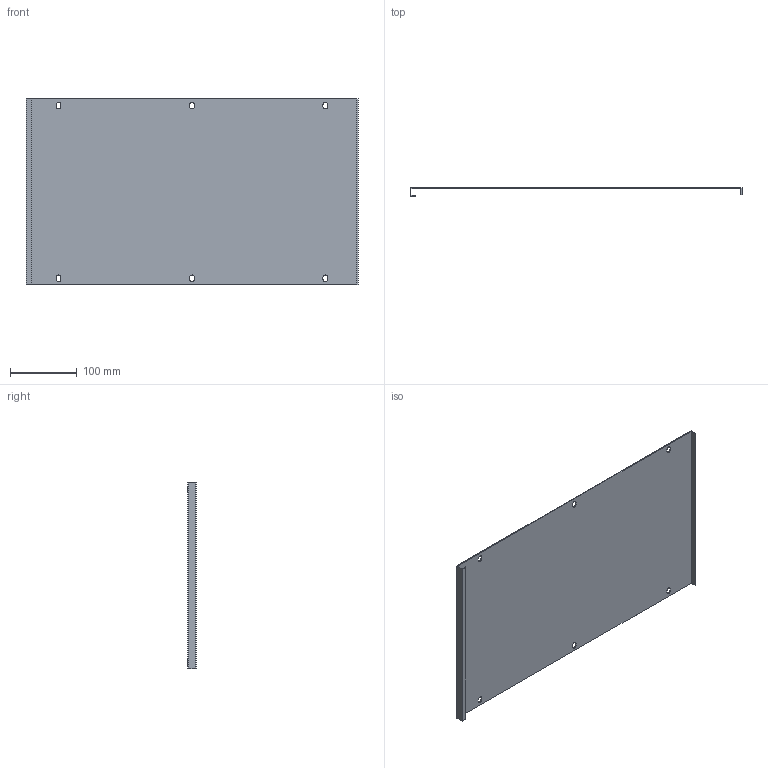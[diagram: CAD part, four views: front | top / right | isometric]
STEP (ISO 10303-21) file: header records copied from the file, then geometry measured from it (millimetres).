
FILE_DESCRIPTION (( 'STEP AP214' ), '1' );
FILE_NAME ('FO-00-PVS-050-040 Ïëàñòðîí ãëóõîé âíóòðåííèé 500õ400.STEP', '2025-08-26T08:46:37', ( '' ), ( '' ), 'SwSTEP 2.0', 'SolidWorks 2023', '' );
FILE_SCHEMA (( 'AUTOMOTIVE_DESIGN' ));
Length unit declared in the file: millimetre
Products named in the file (1): FO-00-PVS-050-040 Пластрон глухой внутренний 500х400
Bounding box: 498 x 12.5 x 279 mm (x, y, z)
Volume: 218758.6 mm3; surface area: 294339.1 mm2
Topology: 1 solids, 1 shells, 52 faces, 150 edges, 100 vertices
Faces by surface type: plane 34, cylinder 18
Entity records: 1757 total; most frequent: CARTESIAN_POINT 303, ORIENTED_EDGE 300, DIRECTION 292, EDGE_CURVE 150, LINE 114, VECTOR 114, VERTEX_POINT 100, AXIS2_PLACEMENT_3D 89
